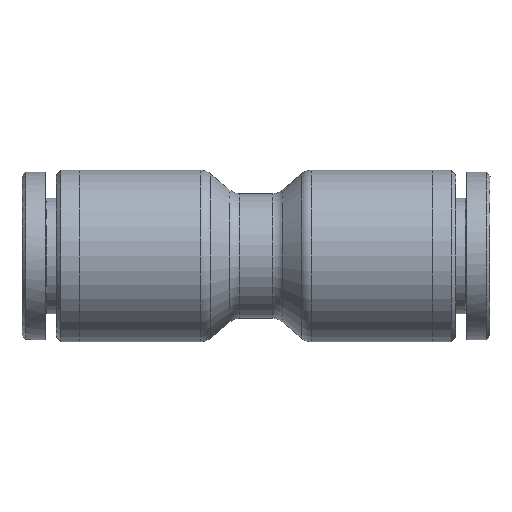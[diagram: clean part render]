
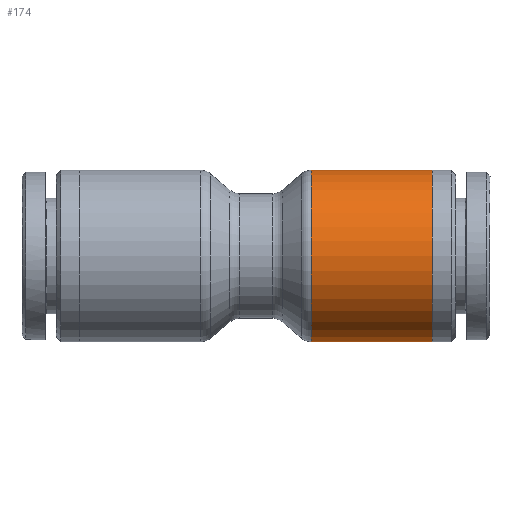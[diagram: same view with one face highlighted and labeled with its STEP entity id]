
A CAD part, front view. The second image highlights one B-rep face of the part: STEP entity #174.
In plain terms, the highlighted cylindrical face has radius 5.85 mm (diameter 11.7 mm), a full revolution.
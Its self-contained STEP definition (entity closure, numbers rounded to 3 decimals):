
#123=CARTESIAN_POINT('',(15.765,5.85,0.));
#124=VERTEX_POINT('',#123);
#125=CARTESIAN_POINT('',(15.765,0.0,0.0));
#126=DIRECTION('',(-1.0,0.0,0.0));
#127=DIRECTION('',(0.0,-1.0,0.0));
#128=AXIS2_PLACEMENT_3D('',#125,#126,#127);
#129=CIRCLE('',#128,5.85);
#130=EDGE_CURVE('',#124,#124,#129,.T.);
#155=CARTESIAN_POINT('',(19.7,0.0,0.0));
#156=DIRECTION('',(1.0,0.0,0.0));
#157=DIRECTION('',(0.0,1.0,0.0));
#158=AXIS2_PLACEMENT_3D('',#155,#156,#157);
#159=CYLINDRICAL_SURFACE('',#158,5.85);
#160=CARTESIAN_POINT('',(24.0,5.85,0.0));
#161=VERTEX_POINT('',#160);
#162=CARTESIAN_POINT('',(24.0,0.0,0.0));
#163=DIRECTION('',(1.0,0.0,0.0));
#164=DIRECTION('',(0.0,1.0,0.0));
#165=AXIS2_PLACEMENT_3D('',#162,#163,#164);
#166=CIRCLE('',#165,5.85);
#167=EDGE_CURVE('',#161,#161,#166,.T.);
#168=ORIENTED_EDGE('',*,*,#167,.F.);
#169=EDGE_LOOP('',(#168));
#170=FACE_OUTER_BOUND('',#169,.T.);
#171=ORIENTED_EDGE('',*,*,#130,.F.);
#172=EDGE_LOOP('',(#171));
#173=FACE_BOUND('',#172,.T.);
#174=ADVANCED_FACE('',(#170,#173),#159,.T.);
